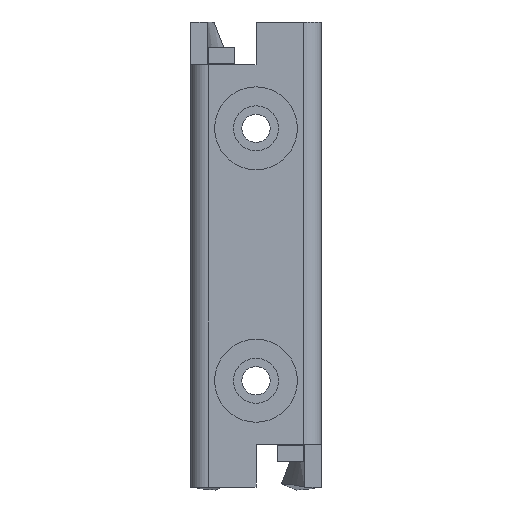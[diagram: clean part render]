
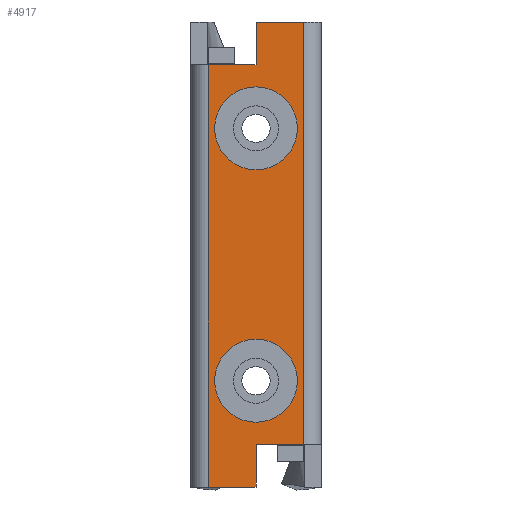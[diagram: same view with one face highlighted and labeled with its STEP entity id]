
A CAD part, front view. The second image highlights one B-rep face of the part: STEP entity #4917.
In plain terms, the highlighted planar face has unit normal (0, -1, 0).
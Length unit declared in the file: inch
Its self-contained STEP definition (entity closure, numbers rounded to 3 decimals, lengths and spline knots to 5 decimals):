
#106 = EDGE_LOOP ( 'NONE', ( #3149, #6255, #5357, #305, #3699, #7254, #3751, #889, #3673, #7553 ) ) ;
#145 = AXIS2_PLACEMENT_3D ( 'NONE', #5236, #327, #7596 ) ;
#171 = CARTESIAN_POINT ( 'NONE',  ( -0.17913, 0., -0.875 ) ) ;
#239 = LINE ( 'NONE', #6636, #6663 ) ;
#305 = ORIENTED_EDGE ( 'NONE', *, *, #1338, .F. ) ;
#327 = DIRECTION ( 'NONE',  ( 0., 1., 0. ) ) ;
#840 = EDGE_CURVE ( 'NONE', #912, #2554, #2274, .T. ) ;
#847 = LINE ( 'NONE', #3744, #4324 ) ;
#881 = EDGE_CURVE ( 'NONE', #2249, #6743, #5513, .T. ) ;
#889 = ORIENTED_EDGE ( 'NONE', *, *, #7262, .T. ) ;
#911 = CARTESIAN_POINT ( 'NONE',  ( -0.07913, 0., 0.71358 ) ) ;
#912 = VERTEX_POINT ( 'NONE', #2977 ) ;
#1026 = ORIENTED_EDGE ( 'NONE', *, *, #881, .T. ) ;
#1108 = EDGE_CURVE ( 'NONE', #6442, #5830, #6135, .T. ) ;
#1128 = VECTOR ( 'NONE', #7420, 39.37008 ) ;
#1135 = CARTESIAN_POINT ( 'NONE',  ( -0.17913, 0., -0.71358 ) ) ;
#1252 = AXIS2_PLACEMENT_3D ( 'NONE', #1465, #1430, #5552 ) ;
#1304 = VERTEX_POINT ( 'NONE', #4170 ) ;
#1338 = EDGE_CURVE ( 'NONE', #1304, #7436, #1808, .T. ) ;
#1430 = DIRECTION ( 'NONE',  ( 0., 1., 0. ) ) ;
#1465 = CARTESIAN_POINT ( 'NONE',  ( 0., 0., -0.475 ) ) ;
#1498 = LINE ( 'NONE', #5577, #3729 ) ;
#1499 = EDGE_LOOP ( 'NONE', ( #2905, #1026 ) ) ;
#1655 = DIRECTION ( 'NONE',  ( 1., 0., 0. ) ) ;
#1782 = EDGE_CURVE ( 'NONE', #7023, #4067, #3386, .T. ) ;
#1793 = FACE_OUTER_BOUND ( 'NONE', #106, .T. ) ;
#1802 = EDGE_LOOP ( 'NONE', ( #3184, #5313 ) ) ;
#1808 = LINE ( 'NONE', #3522, #3818 ) ;
#1982 = CARTESIAN_POINT ( 'NONE',  ( 0., 0., -0.55965 ) ) ;
#1998 = EDGE_CURVE ( 'NONE', #4067, #1304, #2016, .T. ) ;
#2016 = LINE ( 'NONE', #5596, #4316 ) ;
#2043 = LINE ( 'NONE', #911, #2353 ) ;
#2249 = VERTEX_POINT ( 'NONE', #3687 ) ;
#2274 = LINE ( 'NONE', #1135, #2319 ) ;
#2319 = VECTOR ( 'NONE', #1655, 39.37008 ) ;
#2353 = VECTOR ( 'NONE', #4296, 39.37008 ) ;
#2357 = CARTESIAN_POINT ( 'NONE',  ( -0.17913, 0., -0.875 ) ) ;
#2407 = DIRECTION ( 'NONE',  ( 0., 1., 0. ) ) ;
#2488 = FACE_BOUND ( 'NONE', #1499, .T. ) ;
#2554 = VERTEX_POINT ( 'NONE', #2877 ) ;
#2591 = CARTESIAN_POINT ( 'NONE',  ( -0.07913, 0., 0.71358 ) ) ;
#2594 = CIRCLE ( 'NONE', #5301, 0.08465 ) ;
#2821 = CARTESIAN_POINT ( 'NONE',  ( 0., 0., 0.71358 ) ) ;
#2877 = CARTESIAN_POINT ( 'NONE',  ( 0.07913, 0., -0.71358 ) ) ;
#2905 = ORIENTED_EDGE ( 'NONE', *, *, #6904, .T. ) ;
#2969 = EDGE_CURVE ( 'NONE', #2554, #7436, #847, .T. ) ;
#2977 = CARTESIAN_POINT ( 'NONE',  ( 0., 0., -0.71358 ) ) ;
#3149 = ORIENTED_EDGE ( 'NONE', *, *, #6719, .F. ) ;
#3184 = ORIENTED_EDGE ( 'NONE', *, *, #7172, .T. ) ;
#3200 = CARTESIAN_POINT ( 'NONE',  ( -0.17913, 0., 0.71358 ) ) ;
#3357 = DIRECTION ( 'NONE',  ( 0., 0., -1. ) ) ;
#3386 = LINE ( 'NONE', #7006, #3700 ) ;
#3469 = VERTEX_POINT ( 'NONE', #2591 ) ;
#3513 = CARTESIAN_POINT ( 'NONE',  ( 0., 0., 0.475 ) ) ;
#3522 = CARTESIAN_POINT ( 'NONE',  ( 0.17913, 0., 0.875 ) ) ;
#3582 = DIRECTION ( 'NONE',  ( 1., 0., 0. ) ) ;
#3673 = ORIENTED_EDGE ( 'NONE', *, *, #4651, .T. ) ;
#3687 = CARTESIAN_POINT ( 'NONE',  ( 0., 0., 0.55965 ) ) ;
#3699 = ORIENTED_EDGE ( 'NONE', *, *, #1998, .F. ) ;
#3700 = VECTOR ( 'NONE', #5837, 39.37008 ) ;
#3729 = VECTOR ( 'NONE', #3357, 39.37008 ) ;
#3744 = CARTESIAN_POINT ( 'NONE',  ( 0.07913, 0., -0.71358 ) ) ;
#3751 = ORIENTED_EDGE ( 'NONE', *, *, #3868, .T. ) ;
#3777 = DIRECTION ( 'NONE',  ( 1., 0., 0. ) ) ;
#3795 = DIRECTION ( 'NONE',  ( 1., 0., 0. ) ) ;
#3818 = VECTOR ( 'NONE', #5353, 39.37008 ) ;
#3868 = EDGE_CURVE ( 'NONE', #7023, #3469, #4491, .T. ) ;
#3942 = EDGE_CURVE ( 'NONE', #7247, #5087, #7527, .T. ) ;
#4067 = VERTEX_POINT ( 'NONE', #4085 ) ;
#4085 = CARTESIAN_POINT ( 'NONE',  ( 0., 0., 0.875 ) ) ;
#4170 = CARTESIAN_POINT ( 'NONE',  ( 0.17913, 0., 0.875 ) ) ;
#4296 = DIRECTION ( 'NONE',  ( -1., 0., 0. ) ) ;
#4303 = FACE_BOUND ( 'NONE', #1802, .T. ) ;
#4316 = VECTOR ( 'NONE', #6803, 39.37008 ) ;
#4324 = VECTOR ( 'NONE', #3777, 39.37008 ) ;
#4450 = CARTESIAN_POINT ( 'NONE',  ( -0.17913, 0., 0.71358 ) ) ;
#4491 = LINE ( 'NONE', #4450, #1128 ) ;
#4623 = VERTEX_POINT ( 'NONE', #3200 ) ;
#4634 = DIRECTION ( 'NONE',  ( 0., 0., 1. ) ) ;
#4651 = EDGE_CURVE ( 'NONE', #4623, #6442, #1498, .T. ) ;
#4824 = CIRCLE ( 'NONE', #1252, 0.08465 ) ;
#4899 = DIRECTION ( 'NONE',  ( 0., 0., -1. ) ) ;
#4916 = AXIS2_PLACEMENT_3D ( 'NONE', #5203, #6989, #4634 ) ;
#4917 = ADVANCED_FACE ( 'NONE', ( #1793, #4303, #2488 ), #6502, .F. ) ;
#5087 = VERTEX_POINT ( 'NONE', #1982 ) ;
#5114 = CARTESIAN_POINT ( 'NONE',  ( 0., 0., -0.875 ) ) ;
#5203 = CARTESIAN_POINT ( 'NONE',  ( 0., 0., 0.475 ) ) ;
#5236 = CARTESIAN_POINT ( 'NONE',  ( 0., 0., -0.475 ) ) ;
#5301 = AXIS2_PLACEMENT_3D ( 'NONE', #3513, #7588, #5847 ) ;
#5313 = ORIENTED_EDGE ( 'NONE', *, *, #3942, .T. ) ;
#5353 = DIRECTION ( 'NONE',  ( 0., 0., -1. ) ) ;
#5357 = ORIENTED_EDGE ( 'NONE', *, *, #2969, .T. ) ;
#5513 = CIRCLE ( 'NONE', #4916, 0.08465 ) ;
#5552 = DIRECTION ( 'NONE',  ( 0., 0., 1. ) ) ;
#5577 = CARTESIAN_POINT ( 'NONE',  ( -0.17913, 0., 0.875 ) ) ;
#5590 = CARTESIAN_POINT ( 'NONE',  ( 0., 0., -0.39035 ) ) ;
#5596 = CARTESIAN_POINT ( 'NONE',  ( -0.17913, 0., 0.875 ) ) ;
#5668 = AXIS2_PLACEMENT_3D ( 'NONE', #6651, #2407, #3582 ) ;
#5830 = VERTEX_POINT ( 'NONE', #5114 ) ;
#5837 = DIRECTION ( 'NONE',  ( 0., 0., 1. ) ) ;
#5847 = DIRECTION ( 'NONE',  ( 0., 0., 1. ) ) ;
#6135 = LINE ( 'NONE', #171, #7135 ) ;
#6255 = ORIENTED_EDGE ( 'NONE', *, *, #840, .T. ) ;
#6442 = VERTEX_POINT ( 'NONE', #2357 ) ;
#6502 = PLANE ( 'NONE',  #5668 ) ;
#6636 = CARTESIAN_POINT ( 'NONE',  ( 0., 0., 0.875 ) ) ;
#6651 = CARTESIAN_POINT ( 'NONE',  ( -0.17913, 0., 0.875 ) ) ;
#6663 = VECTOR ( 'NONE', #4899, 39.37008 ) ;
#6719 = EDGE_CURVE ( 'NONE', #912, #5830, #239, .T. ) ;
#6743 = VERTEX_POINT ( 'NONE', #7134 ) ;
#6803 = DIRECTION ( 'NONE',  ( 1., 0., 0. ) ) ;
#6904 = EDGE_CURVE ( 'NONE', #6743, #2249, #2594, .T. ) ;
#6989 = DIRECTION ( 'NONE',  ( 0., 1., 0. ) ) ;
#7006 = CARTESIAN_POINT ( 'NONE',  ( 0., 0., 0.875 ) ) ;
#7023 = VERTEX_POINT ( 'NONE', #2821 ) ;
#7134 = CARTESIAN_POINT ( 'NONE',  ( 0., 0., 0.39035 ) ) ;
#7135 = VECTOR ( 'NONE', #3795, 39.37008 ) ;
#7172 = EDGE_CURVE ( 'NONE', #5087, #7247, #4824, .T. ) ;
#7247 = VERTEX_POINT ( 'NONE', #5590 ) ;
#7252 = CARTESIAN_POINT ( 'NONE',  ( 0.17913, 0., -0.71358 ) ) ;
#7254 = ORIENTED_EDGE ( 'NONE', *, *, #1782, .F. ) ;
#7262 = EDGE_CURVE ( 'NONE', #3469, #4623, #2043, .T. ) ;
#7420 = DIRECTION ( 'NONE',  ( -1., 0., 0. ) ) ;
#7436 = VERTEX_POINT ( 'NONE', #7252 ) ;
#7527 = CIRCLE ( 'NONE', #145, 0.08465 ) ;
#7553 = ORIENTED_EDGE ( 'NONE', *, *, #1108, .T. ) ;
#7588 = DIRECTION ( 'NONE',  ( 0., 1., 0. ) ) ;
#7596 = DIRECTION ( 'NONE',  ( 0., 0., 1. ) ) ;
